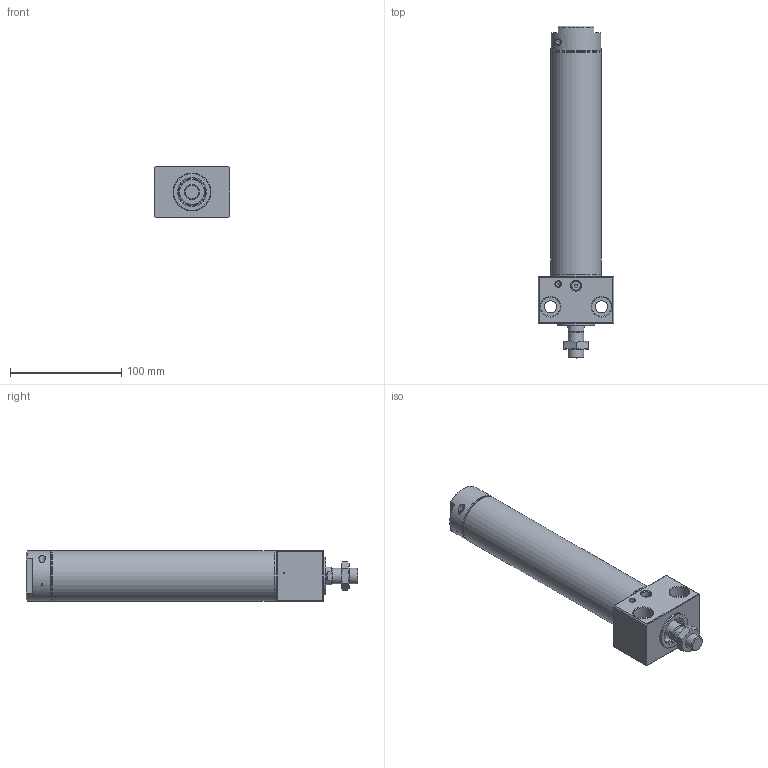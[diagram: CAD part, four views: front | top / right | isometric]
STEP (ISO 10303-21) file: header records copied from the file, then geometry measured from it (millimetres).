
FILE_DESCRIPTION((''),'2;1');
FILE_NAME('I:\3D電子目錄\氣缸\DBS\DBS\DBS40x150-C.stp','2007-10-08T08:49:51',('Administrator'),(''),'Autodesk Inventor 2008','Autodesk Inventor 2008','');
FILE_SCHEMA(('AUTOMOTIVE_DESIGN { 1 0 10303 214 1 1 1 1 }'));
Length unit declared in the file: millimetre
Products named in the file (1): DBS40x150-C
Bounding box: 68 x 298.6 x 46 mm (x, y, z)
Volume: 245795.6 mm3; surface area: 96747.7 mm2
Topology: 7 solids, 7 shells, 207 faces, 421 edges, 258 vertices
Faces by surface type: plane 92, cone 50, cylinder 46, bspline 16, torus 3
Full cylindrical faces by diameter (mm): 1.2 x1, 1.9 x2, 3 x2, 3.3 x1, 4.6 x2, 5 x2, 6 x2, 10.5 x1, 12 x1, 13 x1, 14 x2, 16 x1, 16.5 x1, 18 x1, 21 x2, 24 x3, 26 x2, 27.5 x1, 28 x2, 34 x1, 38 x2, 38.5 x2, 40 x1, 42.2 x6, 45 x4
Entity records: 5327 total; most frequent: CARTESIAN_POINT 1420, DIRECTION 818, ORIENTED_EDGE 630, AXIS2_PLACEMENT_3D 361, EDGE_LOOP 350, EDGE_CURVE 315, VERTEX_POINT 243, FACE_OUTER_BOUND 207
